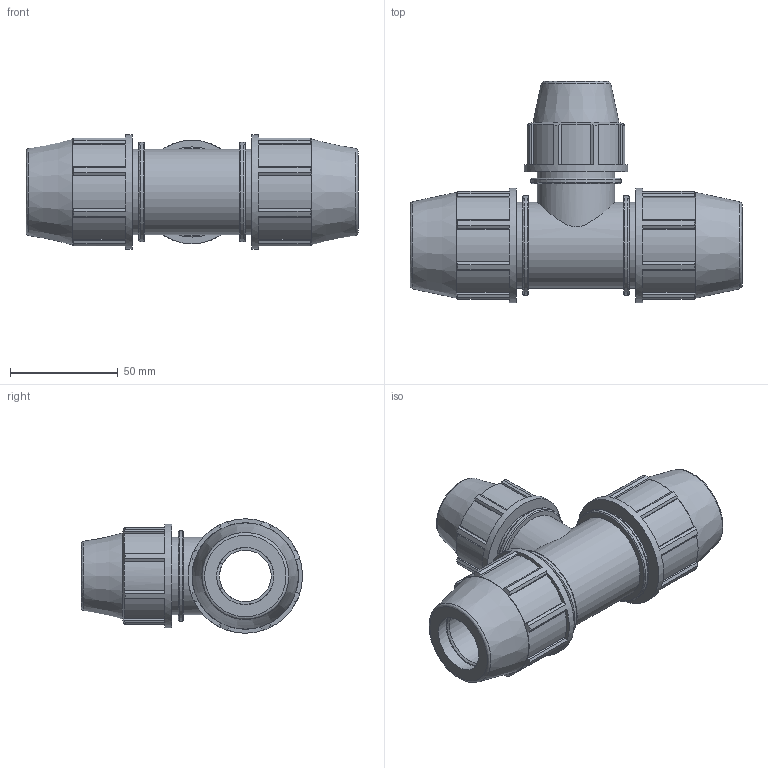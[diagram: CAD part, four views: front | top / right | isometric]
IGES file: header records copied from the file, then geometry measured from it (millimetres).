
Global section: file name: 0734M0007005.ipt; native system: Autodesk Inventor 2019; preprocessor: unknown; author: 12HКирилл; date: 20210826.124754; units: inch
Bounding box: 153.92 x 102.49 x 53.09 mm (x, y, z)
Volume: 217746.2 mm3; surface area: 54751.3 mm2
Topology: 1 solids, 1 shells, 201 faces, 575 edges, 388 vertices
Faces by surface type: plane 138, cylinder 37, revolution 20, cone 6
Full cylindrical faces by diameter (mm): 36.005 x2, 39.814 x3, 41.765 x1, 46.185 x2, 48.006 x1, 53.086 x2
